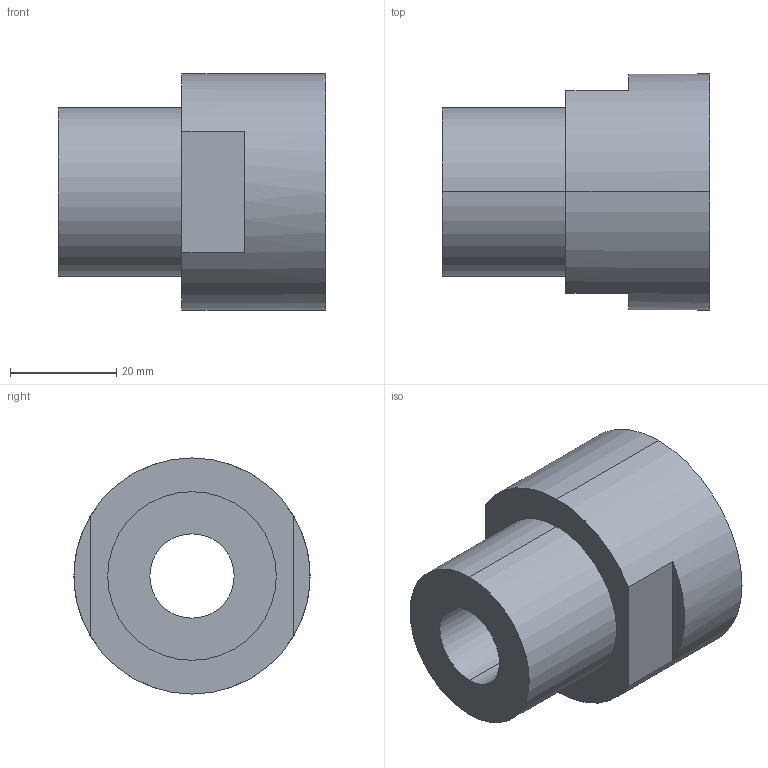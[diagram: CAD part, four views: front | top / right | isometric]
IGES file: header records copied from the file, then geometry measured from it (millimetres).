
Start section: SolidWorks IGES file using analytic representation for surfaces
Global section: file name: S:\Product Visuals\FILES FOR PUBLICATION\SOLID MODELS FOR PUBLICATION\60\front-mount-liquid-fitting\female-npt\Fitting FNPT 16.IGS; native system: SolidWorks 2012; preprocessor: SolidWorks 2012; author: rachel.dressel; date: 121112.104404; units: inch
Bounding box: 50.29 x 44.45 x 44.45 mm (x, y, z)
Volume: 40399.2 mm3; surface area: 12073.2 mm2
Topology: 1 solids, 1 shells, 16 faces, 36 edges, 24 vertices
Faces by surface type: revolution 8, plane 8
